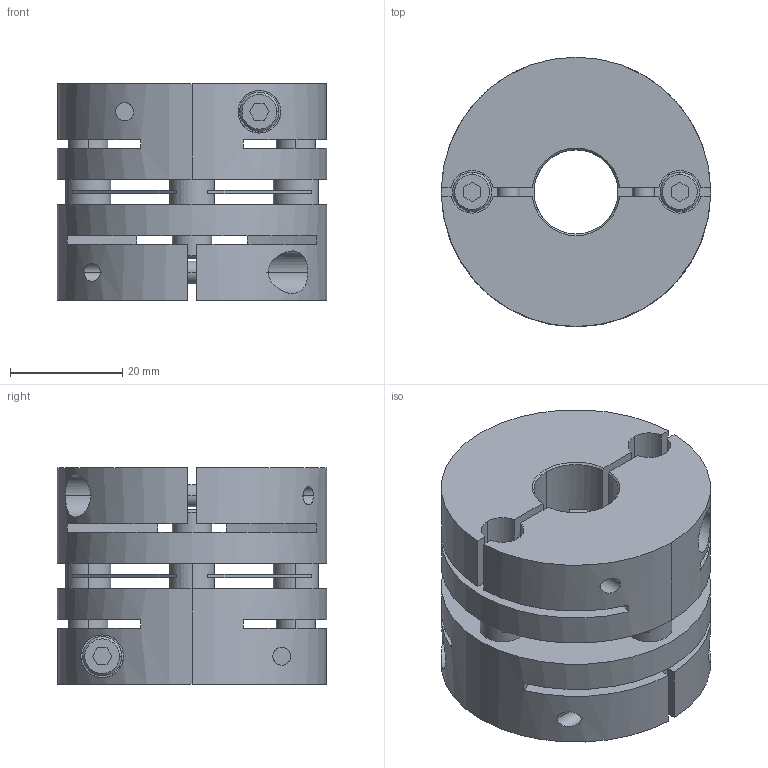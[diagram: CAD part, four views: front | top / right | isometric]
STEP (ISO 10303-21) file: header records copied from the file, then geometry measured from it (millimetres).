
FILE_DESCRIPTION((''),'2;1');
FILE_NAME('LAS-48C-15×22.stp','2015-10-14T15:45:28',(''),(''),'AutoCAD STEP 2000i','AutoCAD 2000i',', , ');
FILE_SCHEMA(('CONFIG_CONTROL_DESIGN'));
Length unit declared in the file: millimetre
Products named in the file (6): LAS-48C-12×19; 忣兜1; LA-4802-D19; LA-4802-D12-1; LA-4802-D12; LAS48-ITA
Assembly tree (5 placements, depth 2):
  LAS-48C-12×19
    忣兜1
    LA-4802-D19
    LA-4802-D12-1
    LA-4802-D12
    LAS48-ITA
Bounding box: 48 x 48 x 38.6 mm (x, y, z)
Volume: 46881.9 mm3; surface area: 21910.9 mm2
Topology: 1 solids, 1 shells, 224 faces, 600 edges, 392 vertices
Faces by surface type: plane 112, cylinder 84, cone 28
Entity records: 7841 total; most frequent: CARTESIAN_POINT 1878, DIRECTION 1256, ORIENTED_EDGE 1200, EDGE_CURVE 600, AXIS2_PLACEMENT_3D 458, VERTEX_POINT 392, VECTOR 340, LINE 340
